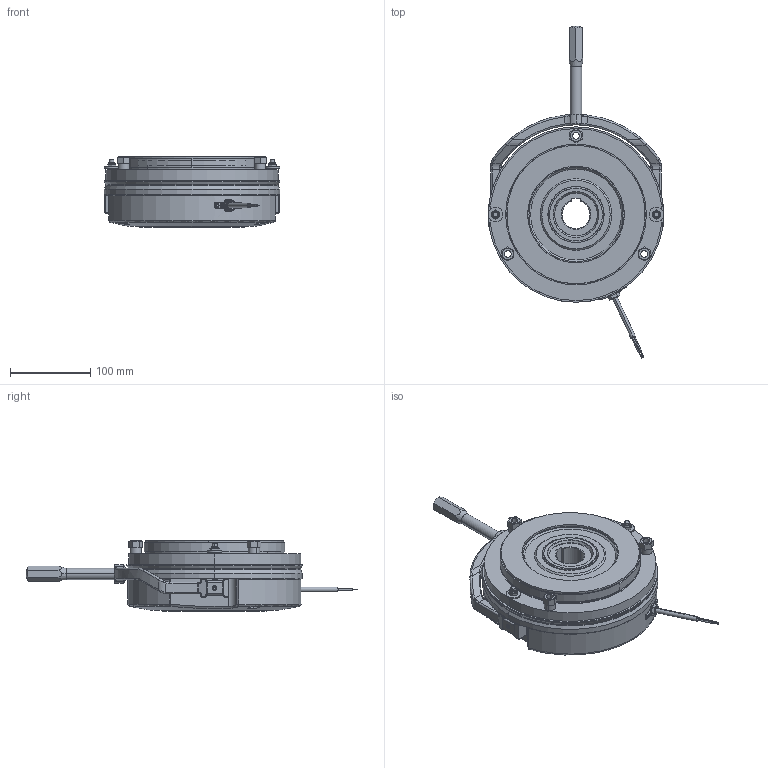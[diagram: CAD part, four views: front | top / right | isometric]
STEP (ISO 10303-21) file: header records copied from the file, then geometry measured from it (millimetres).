
FILE_DESCRIPTION (( 'STEP AP214' ), '1' );
FILE_NAME ('0838 mit HL.STEP', '2025-03-26T13:00:09', ( '' ), ( '' ), 'SwSTEP 2.0', 'SolidWorks 2022', '' );
FILE_SCHEMA (( 'AUTOMOTIVE_DESIGN' ));
Length unit declared in the file: millimetre
Products named in the file (7): 0838 mit HL; 10068481_000; 10068479_000; 10068477_000; 10068484_000; 10068480_000; 10068476_000
Assembly tree (8 placements, depth 2):
  0838 mit HL
    10068481_000
    10068479_000
    10068476_000  x3
    10068477_000
    10068480_000
    10068484_000
Bounding box: 218 x 412.81 x 87.4 mm (x, y, z)
Volume: 2556882.3 mm3; surface area: 389067.3 mm2
Topology: 22 solids, 22 shells, 1439 faces, 3579 edges, 2195 vertices
Faces by surface type: cylinder 503, plane 398, cone 252, bspline 222, torus 52, sphere 12
Entity records: 66771 total; most frequent: CARTESIAN_POINT 22008, ORIENTED_EDGE 6970, DIRECTION 6348, EDGE_CURVE 3485, AXIS2_PLACEMENT_3D 2484, VERTEX_POINT 2147, EDGE_LOOP 1498, ADVANCED_FACE 1405
